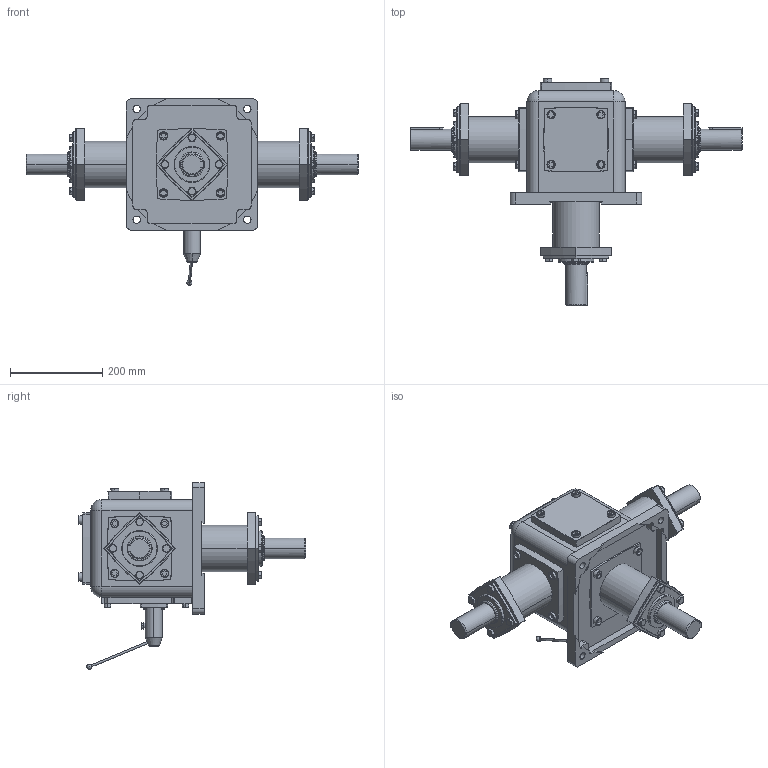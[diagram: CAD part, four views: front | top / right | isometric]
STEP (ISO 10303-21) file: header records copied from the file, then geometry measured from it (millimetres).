
FILE_DESCRIPTION (( 'STEP AP203' ), '1' );
FILE_NAME ('TB10-1：1-01-B3.step', '2018-05-08T09:00:42', ( 'Windows 用户' ), ( '' ), 'SwSTEP 2.0', 'SolidWorks 2016', '' );
FILE_SCHEMA (( 'CONFIG_CONTROL_DESIGN' ));
Length unit declared in the file: millimetre
Products named in the file (3): TB10-1：1-01-B3; TB10-1：1-01-B3_01_TB8; TB10-1：1-01-B3_02_TB8
Assembly tree (2 placements, depth 2):
  TB10-1：1-01-B3
    TB10-1：1-01-B3_01_TB8
    TB10-1：1-01-B3_02_TB8
Bounding box: 720 x 493 x 404.5 mm (x, y, z)
Volume: 16597285.6 mm3; surface area: 734903.1 mm2
Topology: 8 solids, 8 shells, 800 faces, 1879 edges, 1178 vertices
Faces by surface type: plane 387, cylinder 203, torus 106, cone 98, sphere 6
Entity records: 24733 total; most frequent: CARTESIAN_POINT 5946, DIRECTION 3954, ORIENTED_EDGE 3740, EDGE_CURVE 1870, AXIS2_PLACEMENT_3D 1479, VERTEX_POINT 1175, VECTOR 996, LINE 996
